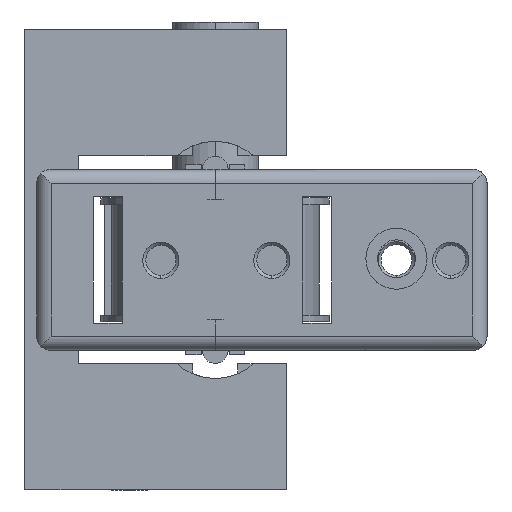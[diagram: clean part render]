
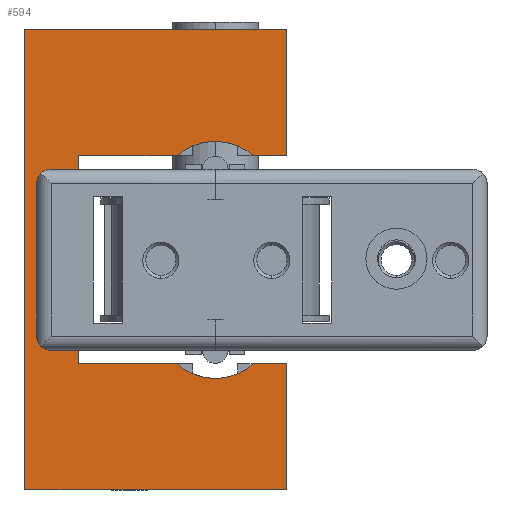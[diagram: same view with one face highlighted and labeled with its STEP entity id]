
A CAD part, left-side view. The second image highlights one B-rep face of the part: STEP entity #594.
In plain terms, the highlighted planar face has unit normal (-1, 0, 0).
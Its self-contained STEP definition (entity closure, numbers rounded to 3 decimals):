
#594 = ADVANCED_FACE ( 'NONE', ( #7268 ), #8070, .T. ) ;
#1676 = EDGE_CURVE ( 'NONE', #11056, #11062, #13607, .T. ) ;
#1680 = EDGE_CURVE ( 'NONE', #11054, #11053, #13612, .T. ) ;
#1681 = EDGE_CURVE ( 'NONE', #11051, #11054, #13614, .T. ) ;
#1682 = EDGE_CURVE ( 'NONE', #11049, #11051, #13616, .T. ) ;
#1683 = EDGE_CURVE ( 'NONE', #11047, #11049, #13618, .T. ) ;
#1684 = EDGE_CURVE ( 'NONE', #11045, #11047, #13620, .T. ) ;
#1685 = EDGE_CURVE ( 'NONE', #11045, #11056, #13623, .T. ) ;
#1686 = EDGE_CURVE ( 'NONE', #11013, #11062, #13622, .T. ) ;
#1687 = EDGE_CURVE ( 'NONE', #11009, #11013, #13625, .T. ) ;
#1688 = EDGE_CURVE ( 'NONE', #11011, #11009, #13627, .T. ) ;
#1689 = EDGE_CURVE ( 'NONE', #11011, #11038, #13630, .T. ) ;
#1690 = EDGE_CURVE ( 'NONE', #11036, #11038, #13629, .T. ) ;
#1691 = EDGE_CURVE ( 'NONE', #11053, #11036, #13632, .T. ) ;
#3589 = ORIENTED_EDGE ( 'NONE', *, *, #1680, .F. ) ;
#3590 = ORIENTED_EDGE ( 'NONE', *, *, #1681, .F. ) ;
#3591 = ORIENTED_EDGE ( 'NONE', *, *, #1682, .F. ) ;
#3592 = ORIENTED_EDGE ( 'NONE', *, *, #1683, .F. ) ;
#3593 = ORIENTED_EDGE ( 'NONE', *, *, #1684, .F. ) ;
#3594 = ORIENTED_EDGE ( 'NONE', *, *, #1685, .T. ) ;
#3595 = ORIENTED_EDGE ( 'NONE', *, *, #1676, .T. ) ;
#3596 = ORIENTED_EDGE ( 'NONE', *, *, #1686, .F. ) ;
#3597 = ORIENTED_EDGE ( 'NONE', *, *, #1687, .F. ) ;
#3598 = ORIENTED_EDGE ( 'NONE', *, *, #1688, .F. ) ;
#3599 = ORIENTED_EDGE ( 'NONE', *, *, #1689, .T. ) ;
#3600 = ORIENTED_EDGE ( 'NONE', *, *, #1690, .F. ) ;
#3601 = ORIENTED_EDGE ( 'NONE', *, *, #1691, .F. ) ;
#5325 = AXIS2_PLACEMENT_3D ( 'NONE', #8071, #8072, #8073 ) ;
#5831 = AXIS2_PLACEMENT_3D ( 'NONE', #14394, #14395, #14396 ) ;
#5833 = AXIS2_PLACEMENT_3D ( 'NONE', #14414, #14415, #14416 ) ;
#5834 = AXIS2_PLACEMENT_3D ( 'NONE', #14423, #14424, #14425 ) ;
#6066 = EDGE_LOOP ( 'NONE', ( #3589, #3590, #3591, #3592, #3593, #3594, #3595, #3596, #3597, #3598, #3599, #3600, #3601 ) ) ;
#7268 = FACE_OUTER_BOUND ( 'NONE', #6066, .T. ) ;
#8070 = PLANE ( 'NONE',  #5325 ) ;
#8071 = CARTESIAN_POINT ( 'NONE',  ( 235.2, 4.3, 0. ) ) ;
#8072 = DIRECTION ( 'NONE',  ( -1., 0., 0. ) ) ;
#8073 = DIRECTION ( 'NONE',  ( 0., 0., 1. ) ) ;
#11009 = VERTEX_POINT ( 'NONE', #18266 ) ;
#11011 = VERTEX_POINT ( 'NONE', #18267 ) ;
#11013 = VERTEX_POINT ( 'NONE', #18268 ) ;
#11036 = VERTEX_POINT ( 'NONE', #18281 ) ;
#11038 = VERTEX_POINT ( 'NONE', #18282 ) ;
#11045 = VERTEX_POINT ( 'NONE', #18286 ) ;
#11047 = VERTEX_POINT ( 'NONE', #18287 ) ;
#11049 = VERTEX_POINT ( 'NONE', #18288 ) ;
#11051 = VERTEX_POINT ( 'NONE', #18289 ) ;
#11053 = VERTEX_POINT ( 'NONE', #18290 ) ;
#11054 = VERTEX_POINT ( 'NONE', #18291 ) ;
#11056 = VERTEX_POINT ( 'NONE', #18292 ) ;
#11062 = VERTEX_POINT ( 'NONE', #18295 ) ;
#13607 = CIRCLE ( 'NONE', #5831, 12.7 ) ;
#13612 = LINE ( 'NONE', #14404, #13613 ) ;
#13613 = VECTOR ( 'NONE', #14405, 1000. ) ;
#13614 = LINE ( 'NONE', #14406, #13615 ) ;
#13615 = VECTOR ( 'NONE', #14407, 1000. ) ;
#13616 = LINE ( 'NONE', #14408, #13617 ) ;
#13617 = VECTOR ( 'NONE', #14409, 1000. ) ;
#13618 = LINE ( 'NONE', #14410, #13619 ) ;
#13619 = VECTOR ( 'NONE', #14411, 1000. ) ;
#13620 = LINE ( 'NONE', #14412, #13621 ) ;
#13621 = VECTOR ( 'NONE', #14413, 1000. ) ;
#13622 = LINE ( 'NONE', #14417, #13624 ) ;
#13623 = CIRCLE ( 'NONE', #5833, 12.7 ) ;
#13624 = VECTOR ( 'NONE', #14418, 1000. ) ;
#13625 = LINE ( 'NONE', #14419, #13626 ) ;
#13626 = VECTOR ( 'NONE', #14420, 1000. ) ;
#13627 = LINE ( 'NONE', #14421, #13628 ) ;
#13628 = VECTOR ( 'NONE', #14422, 1000. ) ;
#13629 = LINE ( 'NONE', #14426, #13631 ) ;
#13630 = CIRCLE ( 'NONE', #5834, 12.7 ) ;
#13631 = VECTOR ( 'NONE', #14427, 1000. ) ;
#13632 = LINE ( 'NONE', #14428, #13633 ) ;
#13633 = VECTOR ( 'NONE', #14429, 1000. ) ;
#14394 = CARTESIAN_POINT ( 'NONE',  ( 235.2, 20., -13.462 ) ) ;
#14395 = DIRECTION ( 'NONE',  ( 1., 0., 0. ) ) ;
#14396 = DIRECTION ( 'NONE',  ( 0., 0., -1. ) ) ;
#14404 = CARTESIAN_POINT ( 'NONE',  ( 235.2, 62., 50.8 ) ) ;
#14405 = DIRECTION ( 'NONE',  ( 0., -1., 0. ) ) ;
#14406 = CARTESIAN_POINT ( 'NONE',  ( 235.2, 62., -50.8 ) ) ;
#14407 = DIRECTION ( 'NONE',  ( 0., 0., 1. ) ) ;
#14408 = CARTESIAN_POINT ( 'NONE',  ( 235.2, 4.3, -50.8 ) ) ;
#14409 = DIRECTION ( 'NONE',  ( 0., 1., 0. ) ) ;
#14410 = CARTESIAN_POINT ( 'NONE',  ( 235.2, 4.3, -22.987 ) ) ;
#14411 = DIRECTION ( 'NONE',  ( 0., 0., -1. ) ) ;
#14412 = CARTESIAN_POINT ( 'NONE',  ( 235.2, 11.6, -22.987 ) ) ;
#14413 = DIRECTION ( 'NONE',  ( 0., -1., 0. ) ) ;
#14414 = CARTESIAN_POINT ( 'NONE',  ( 235.2, 20., -13.462 ) ) ;
#14415 = DIRECTION ( 'NONE',  ( 1., 0., 0. ) ) ;
#14416 = DIRECTION ( 'NONE',  ( 0., 0., -1. ) ) ;
#14417 = CARTESIAN_POINT ( 'NONE',  ( 235.2, 50.147, -22.987 ) ) ;
#14418 = DIRECTION ( 'NONE',  ( 0., -1., 0. ) ) ;
#14419 = CARTESIAN_POINT ( 'NONE',  ( 235.2, 50.147, 22.987 ) ) ;
#14420 = DIRECTION ( 'NONE',  ( 0., 0., -1. ) ) ;
#14421 = CARTESIAN_POINT ( 'NONE',  ( 235.2, 28.401, 22.987 ) ) ;
#14422 = DIRECTION ( 'NONE',  ( 0., 1., 0. ) ) ;
#14423 = CARTESIAN_POINT ( 'NONE',  ( 235.2, 20., 13.462 ) ) ;
#14424 = DIRECTION ( 'NONE',  ( 1., 0., 0. ) ) ;
#14425 = DIRECTION ( 'NONE',  ( 0., 0., -1. ) ) ;
#14426 = CARTESIAN_POINT ( 'NONE',  ( 235.2, 4.3, 22.987 ) ) ;
#14427 = DIRECTION ( 'NONE',  ( 0., 1., 0. ) ) ;
#14428 = CARTESIAN_POINT ( 'NONE',  ( 235.2, 4.3, 50.8 ) ) ;
#14429 = DIRECTION ( 'NONE',  ( 0., 0., -1. ) ) ;
#18266 = CARTESIAN_POINT ( 'NONE',  ( 235.2, 50.147, 22.987 ) ) ;
#18267 = CARTESIAN_POINT ( 'NONE',  ( 235.2, 28.401, 22.987 ) ) ;
#18268 = CARTESIAN_POINT ( 'NONE',  ( 235.2, 50.147, -22.987 ) ) ;
#18281 = CARTESIAN_POINT ( 'NONE',  ( 235.2, 4.3, 22.987 ) ) ;
#18282 = CARTESIAN_POINT ( 'NONE',  ( 235.2, 11.6, 22.987 ) ) ;
#18286 = CARTESIAN_POINT ( 'NONE',  ( 235.2, 11.6, -22.987 ) ) ;
#18287 = CARTESIAN_POINT ( 'NONE',  ( 235.2, 4.3, -22.987 ) ) ;
#18288 = CARTESIAN_POINT ( 'NONE',  ( 235.2, 4.3, -50.8 ) ) ;
#18289 = CARTESIAN_POINT ( 'NONE',  ( 235.2, 62., -50.8 ) ) ;
#18290 = CARTESIAN_POINT ( 'NONE',  ( 235.2, 4.3, 50.8 ) ) ;
#18291 = CARTESIAN_POINT ( 'NONE',  ( 235.2, 62., 50.8 ) ) ;
#18292 = CARTESIAN_POINT ( 'NONE',  ( 235.2, 20., -26.162 ) ) ;
#18295 = CARTESIAN_POINT ( 'NONE',  ( 235.2, 28.401, -22.987 ) ) ;
